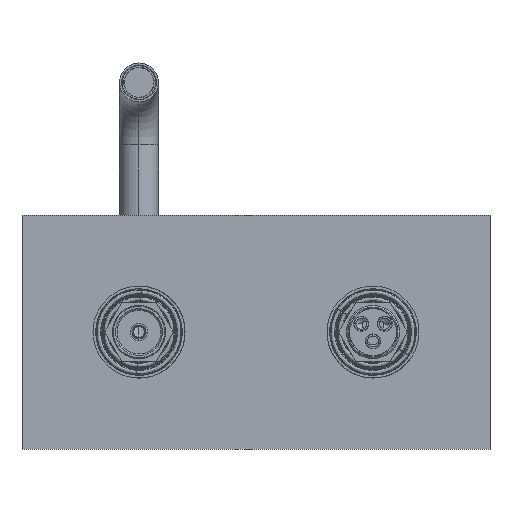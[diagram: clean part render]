
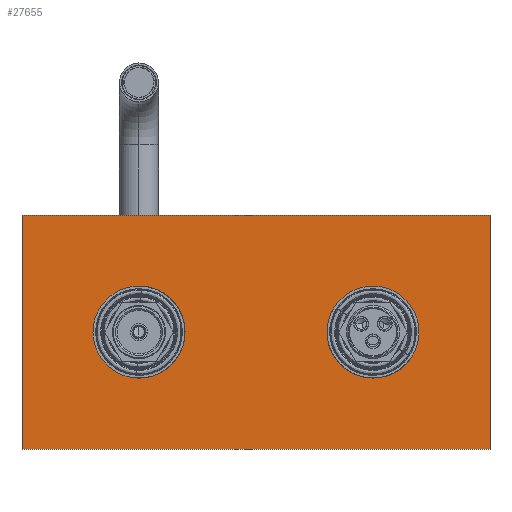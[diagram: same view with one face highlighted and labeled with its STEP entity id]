
A CAD part, front view. The second image highlights one B-rep face of the part: STEP entity #27655.
In plain terms, the highlighted planar face has unit normal (0, -1, 0).
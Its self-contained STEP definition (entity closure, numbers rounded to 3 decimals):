
#39 = EDGE_CURVE ( 'NONE', #21110, #35094, #40256, .T. ) ;
#374 = VERTEX_POINT ( 'NONE', #33492 ) ;
#531 = EDGE_LOOP ( 'NONE', ( #40404, #33981 ) ) ;
#561 = VECTOR ( 'NONE', #7993, 1000. ) ;
#955 = CARTESIAN_POINT ( 'NONE',  ( 111.53, -13.907, 150. ) ) ;
#1540 = AXIS2_PLACEMENT_3D ( 'NONE', #7682, #23537, #19868 ) ;
#1782 = DIRECTION ( 'NONE',  ( 0., 1., 0. ) ) ;
#2006 = DIRECTION ( 'NONE',  ( 0., 1., 0. ) ) ;
#2118 = FACE_BOUND ( 'NONE', #50837, .T. ) ;
#3211 = CIRCLE ( 'NONE', #4646, 17.5 ) ;
#3952 = AXIS2_PLACEMENT_3D ( 'NONE', #21918, #45712, #25755 ) ;
#4014 = AXIS2_PLACEMENT_3D ( 'NONE', #21613, #1782, #25787 ) ;
#4063 = LINE ( 'NONE', #25534, #26485 ) ;
#4523 = CIRCLE ( 'NONE', #3952, 17.5 ) ;
#4646 = AXIS2_PLACEMENT_3D ( 'NONE', #42785, #46833, #19228 ) ;
#5375 = ORIENTED_EDGE ( 'NONE', *, *, #9812, .F. ) ;
#5830 = CARTESIAN_POINT ( 'NONE',  ( 36.53, -13.907, 75. ) ) ;
#7682 = CARTESIAN_POINT ( 'NONE',  ( -113.47, -13.907, 75. ) ) ;
#7867 = CARTESIAN_POINT ( 'NONE',  ( -188.47, -13.907, 0. ) ) ;
#7984 = CARTESIAN_POINT ( 'NONE',  ( -130.97, -13.907, 75. ) ) ;
#7993 = DIRECTION ( 'NONE',  ( 1., 0., 0. ) ) ;
#9812 = EDGE_CURVE ( 'NONE', #35094, #374, #49139, .T. ) ;
#10308 = CIRCLE ( 'NONE', #1540, 17.5 ) ;
#11735 = LINE ( 'NONE', #35712, #561 ) ;
#11937 = CARTESIAN_POINT ( 'NONE',  ( -95.97, -13.907, 75. ) ) ;
#12809 = VECTOR ( 'NONE', #26430, 1000. ) ;
#14154 = VECTOR ( 'NONE', #37214, 1000. ) ;
#14281 = EDGE_LOOP ( 'NONE', ( #24765, #5375, #31738, #36727 ) ) ;
#14807 = EDGE_CURVE ( 'NONE', #38426, #20047, #4523, .T. ) ;
#15440 = EDGE_CURVE ( 'NONE', #17332, #20865, #3211, .T. ) ;
#17177 = DIRECTION ( 'NONE',  ( 0., 0., -1. ) ) ;
#17332 = VERTEX_POINT ( 'NONE', #43380 ) ;
#17733 = CIRCLE ( 'NONE', #51468, 17.5 ) ;
#19228 = DIRECTION ( 'NONE',  ( -1., 0., 0. ) ) ;
#19868 = DIRECTION ( 'NONE',  ( -1., 0., 0. ) ) ;
#20047 = VERTEX_POINT ( 'NONE', #7984 ) ;
#20865 = VERTEX_POINT ( 'NONE', #35526 ) ;
#21110 = VERTEX_POINT ( 'NONE', #25546 ) ;
#21613 = CARTESIAN_POINT ( 'NONE',  ( -188.47, -13.907, 150. ) ) ;
#21918 = CARTESIAN_POINT ( 'NONE',  ( -113.47, -13.907, 75. ) ) ;
#22545 = EDGE_CURVE ( 'NONE', #40030, #374, #11735, .T. ) ;
#23537 = DIRECTION ( 'NONE',  ( 0., 1., 0. ) ) ;
#24558 = FACE_BOUND ( 'NONE', #531, .T. ) ;
#24765 = ORIENTED_EDGE ( 'NONE', *, *, #22545, .T. ) ;
#25286 = PLANE ( 'NONE',  #4014 ) ;
#25534 = CARTESIAN_POINT ( 'NONE',  ( -188.47, -13.907, 150. ) ) ;
#25546 = CARTESIAN_POINT ( 'NONE',  ( -188.47, -13.907, 150. ) ) ;
#25755 = DIRECTION ( 'NONE',  ( -1., 0., 0. ) ) ;
#25787 = DIRECTION ( 'NONE',  ( 0., 0., 1. ) ) ;
#26430 = DIRECTION ( 'NONE',  ( 1., 0., 0. ) ) ;
#26485 = VECTOR ( 'NONE', #17177, 1000. ) ;
#27268 = EDGE_CURVE ( 'NONE', #20865, #17332, #17733, .T. ) ;
#27655 = ADVANCED_FACE ( 'NONE', ( #24558, #2118, #47071 ), #25286, .F. ) ;
#28144 = CARTESIAN_POINT ( 'NONE',  ( 111.53, -13.907, 150. ) ) ;
#29888 = DIRECTION ( 'NONE',  ( -1., 0., 0. ) ) ;
#31738 = ORIENTED_EDGE ( 'NONE', *, *, #39, .F. ) ;
#33492 = CARTESIAN_POINT ( 'NONE',  ( 111.53, -13.907, 0. ) ) ;
#33981 = ORIENTED_EDGE ( 'NONE', *, *, #15440, .T. ) ;
#35094 = VERTEX_POINT ( 'NONE', #28144 ) ;
#35526 = CARTESIAN_POINT ( 'NONE',  ( 19.03, -13.907, 75. ) ) ;
#35712 = CARTESIAN_POINT ( 'NONE',  ( -188.47, -13.907, 0. ) ) ;
#36727 = ORIENTED_EDGE ( 'NONE', *, *, #38666, .T. ) ;
#37214 = DIRECTION ( 'NONE',  ( 0., 0., -1. ) ) ;
#38426 = VERTEX_POINT ( 'NONE', #11937 ) ;
#38666 = EDGE_CURVE ( 'NONE', #21110, #40030, #4063, .T. ) ;
#39963 = EDGE_CURVE ( 'NONE', #20047, #38426, #10308, .T. ) ;
#40030 = VERTEX_POINT ( 'NONE', #7867 ) ;
#40256 = LINE ( 'NONE', #41501, #12809 ) ;
#40404 = ORIENTED_EDGE ( 'NONE', *, *, #27268, .T. ) ;
#41501 = CARTESIAN_POINT ( 'NONE',  ( -188.47, -13.907, 150. ) ) ;
#42785 = CARTESIAN_POINT ( 'NONE',  ( 36.53, -13.907, 75. ) ) ;
#43380 = CARTESIAN_POINT ( 'NONE',  ( 54.03, -13.907, 75. ) ) ;
#44738 = ORIENTED_EDGE ( 'NONE', *, *, #39963, .T. ) ;
#45712 = DIRECTION ( 'NONE',  ( 0., 1., 0. ) ) ;
#46833 = DIRECTION ( 'NONE',  ( 0., 1., 0. ) ) ;
#47071 = FACE_OUTER_BOUND ( 'NONE', #14281, .T. ) ;
#48014 = ORIENTED_EDGE ( 'NONE', *, *, #14807, .T. ) ;
#49139 = LINE ( 'NONE', #955, #14154 ) ;
#50837 = EDGE_LOOP ( 'NONE', ( #44738, #48014 ) ) ;
#51468 = AXIS2_PLACEMENT_3D ( 'NONE', #5830, #2006, #29888 ) ;
